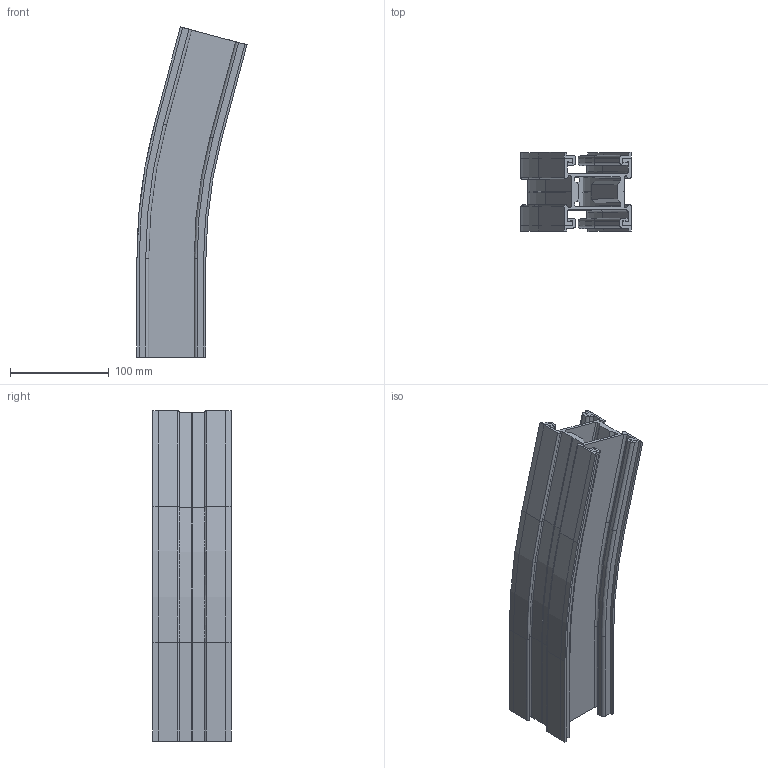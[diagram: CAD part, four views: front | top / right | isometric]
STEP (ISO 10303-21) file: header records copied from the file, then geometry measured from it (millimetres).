
FILE_DESCRIPTION (( 'STEP AP203' ), '1' );
FILE_NAME ('R1C500-15.STEP', '2008-11-24T14:38:45', ( 'faber' ), ( '' ), 'SwSTEP 2.0', 'SolidWorks 2008', '' );
FILE_SCHEMA (( 'CONFIG_CONTROL_DESIGN' ));
Length unit declared in the file: millimetre
Products named in the file (1): R1C500-15
Bounding box: 111.73 x 79.8 x 335.06 mm (x, y, z)
Surface area: 228596.7 mm2 (no closed solid volume)
Topology: 0 solids, 5 shells, 228 faces, 688 edges, 456 vertices
Faces by surface type: plane 128, cylinder 72, bspline 20, cone 8
Entity records: 8137 total; most frequent: CARTESIAN_POINT 1989, DIRECTION 1258, ORIENTED_EDGE 1204, EDGE_CURVE 688, LINE 496, VECTOR 496, VERTEX_POINT 456, AXIS2_PLACEMENT_3D 381
